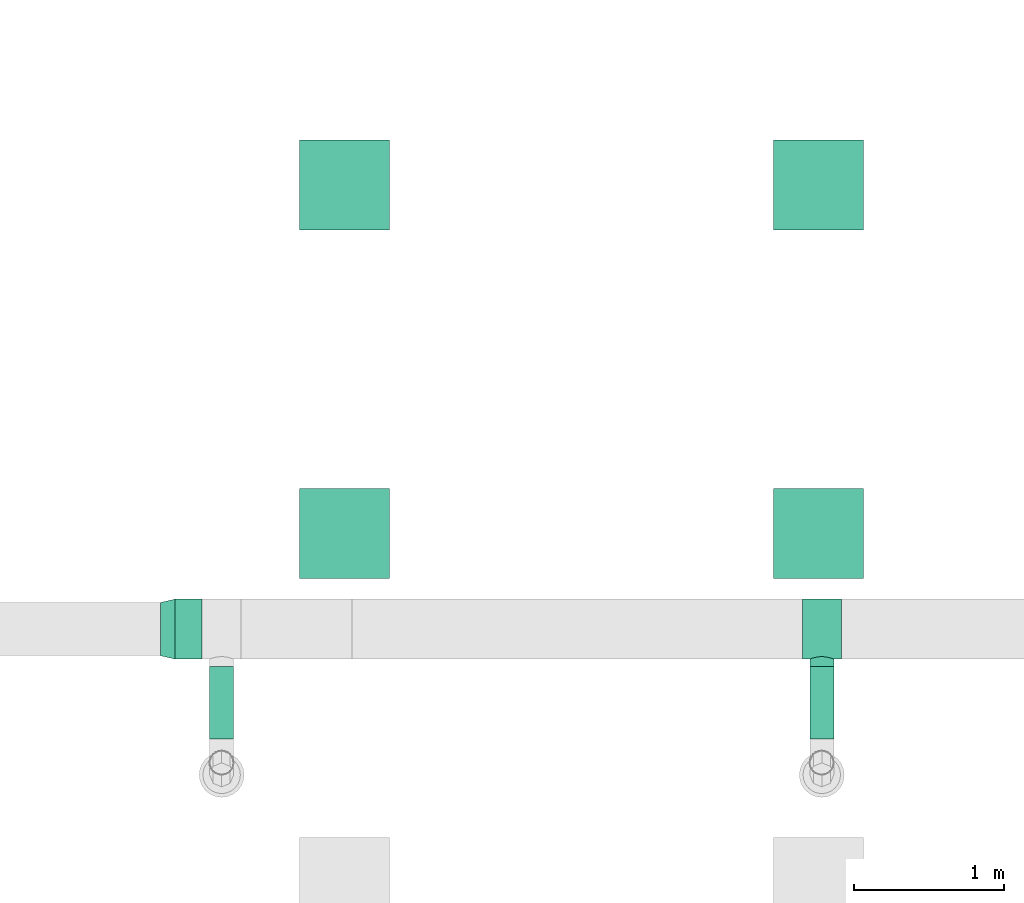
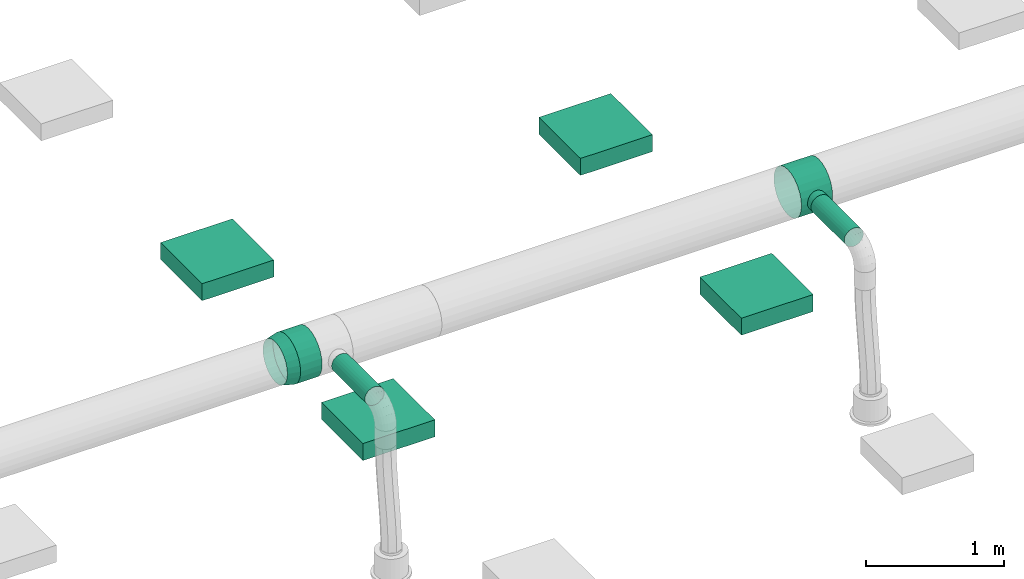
# One storey, part 61 of 374: 4 distribution elements, 3 flow segments, 2 flow fittings.
"""IFC2X3 building model written with IfcOpenShell, lengths in metres."""

from ifc_helpers import new_model, si_unit, direction, frame, frame_2d, origin, place, context, subcontext, project, spatial, rectangle, extrude, open_shell, surface_model, source, transform, mapped, element, save


model = new_model("IFC2X3")

# Units and contexts
model_context = context("Model", 3, precision=1e-05, world=origin(), true_north=direction((-0.4480736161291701, 0.8939966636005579)))
body_context = subcontext(model_context, "Body", "Model", "MODEL_VIEW")
ifc_project = project(units=[si_unit("LENGTHUNIT", "METRE"), si_unit("AREAUNIT", "SQUARE_METRE"), si_unit("VOLUMEUNIT", "CUBIC_METRE"), si_unit("PLANEANGLEUNIT", "RADIAN"), si_unit("THERMODYNAMICTEMPERATUREUNIT", "KELVIN"), si_unit("MASSUNIT", "GRAM", prefix="KILO"), si_unit("TIMEUNIT", "SECOND")], contexts=[model_context])

# Site, building, storey
site_placement = place(None, origin())
site = spatial("IfcSite", under=ifc_project, at=site_placement, Name="Site 1", CompositionType="ELEMENT")
building_placement = place(site_placement, origin())
building = spatial("IfcBuilding", under=site, at=building_placement, Name="Undefined", CompositionType="ELEMENT")
storey_placement = place(building_placement, origin())
storey = spatial("IfcBuildingStorey", under=building, at=storey_placement, Name="Rez de chauss\x8ee", CompositionType="ELEMENT", Elevation=0.0)

# Flow fitting
shared_shape_1 = source(origin(), body_context, "Body", "SurfaceModel", [
    surface_model("IfcFaceBasedSurfaceModel", [(0.0, 0.05221047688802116, -8.8817842e-16), (0.0, 0.0, 0.0), (0.2599999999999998, -7.105427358e-15, 0.0), (0.2599999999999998, 0.05221047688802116, -8.8817842e-16), (0.0, -0.05043144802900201, -0.013513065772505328), (0.2599999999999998, -0.05043144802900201, -0.013513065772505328), (0.0, -0.09564704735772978, -0.0396183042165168), (0.2599999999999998, -0.09564704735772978, -0.0396183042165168), (0.0, -0.1325654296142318, -0.07653668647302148), (0.2599999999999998, -0.1325654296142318, -0.07653668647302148), (0.0, -0.15867066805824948, -0.12175228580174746), (0.2599999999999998, -0.15867066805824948, -0.12175228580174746), (0.0, -0.17218373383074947, -0.17218373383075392), (0.2599999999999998, -0.17218373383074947, -0.17218373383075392), (0.0, -0.17218373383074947, -0.22439421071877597), (0.2599999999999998, -0.17218373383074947, -0.22439421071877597), (0.0, -0.15867066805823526, -0.2748256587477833), (0.2599999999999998, -0.15867066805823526, -0.2748256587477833), (0.0, -0.1325654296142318, -0.3200412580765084), (0.2599999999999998, -0.1325654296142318, -0.3200412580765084), (0.0, -0.09564704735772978, -0.35695964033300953), (0.2599999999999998, -0.09564704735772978, -0.35695964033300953), (0.0, -0.050431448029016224, -0.3830648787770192), (0.2599999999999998, -0.050431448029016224, -0.3830648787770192), (0.0, 0.0, -0.39657794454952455), (0.2599999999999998, 0.0, -0.39657794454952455), (0.0, 0.05221047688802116, -0.3965779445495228), (0.2599999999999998, 0.05221047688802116, -0.3965779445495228), (0.0, 0.10264192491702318, -0.38306487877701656), (0.2599999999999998, 0.10264192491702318, -0.38306487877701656), (0.0, 0.14785752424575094, -0.356959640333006), (0.2599999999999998, 0.14785752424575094, -0.356959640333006), (0.0, 0.18477590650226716, -0.32004125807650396), (0.2599999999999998, 0.18477590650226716, -0.32004125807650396), (0.0, 0.21088114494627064, -0.2748256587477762), (0.2599999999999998, 0.21088114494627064, -0.2748256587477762), (0.0, 0.22439421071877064, -0.22439421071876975), (0.2599999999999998, 0.22439421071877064, -0.22439421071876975), (0.0, 0.22439421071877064, -0.1721837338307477), (0.2599999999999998, 0.22439421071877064, -0.1721837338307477), (0.0, 0.21088114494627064, -0.12175228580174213), (0.2599999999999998, 0.21088114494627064, -0.12175228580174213), (0.0, 0.18477590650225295, -0.07653668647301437), (0.2599999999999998, 0.18477590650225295, -0.07653668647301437), (0.0, 0.14785752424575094, -0.03961830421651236), (0.2599999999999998, 0.14785752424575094, -0.03961830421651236), (0.0, 0.10264192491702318, -0.013513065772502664), (0.2599999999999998, 0.10264192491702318, -0.013513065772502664), (0.20999999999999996, 0.22439421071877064, -0.22439421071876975), (0.2072740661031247, 0.2206261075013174, -0.24478232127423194), (0.2072740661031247, 0.2712638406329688, -0.2514489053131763), (0.20999999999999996, 0.273966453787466, -0.23092052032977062), (0.19928203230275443, 0.21516691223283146, -0.263524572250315), (0.19928203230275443, 0.2687454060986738, -0.27057831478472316), (0.18656854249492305, 0.20891366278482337, -0.2794128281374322), (0.18656854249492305, 0.2665827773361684, -0.2870051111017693), (0.16999999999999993, 0.20307366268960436, -0.291467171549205), (0.16999999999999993, 0.26492333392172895, -0.29960983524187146), (0.15070552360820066, 0.19890954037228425, -0.2989799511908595), (0.15070552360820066, 0.26388016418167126, -0.307533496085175), (0.1299999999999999, 0.19739798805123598, -0.3015304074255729), (0.1299999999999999, 0.26352435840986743, -0.3102361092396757), (0.10929447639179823, 0.19890954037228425, -0.2989799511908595), (0.10929447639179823, 0.26388016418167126, -0.307533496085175), (0.08999999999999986, 0.20307366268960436, -0.291467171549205), (0.08999999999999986, 0.26492333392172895, -0.29960983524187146), (0.07343145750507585, 0.20891366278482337, -0.2794128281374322), (0.07343145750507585, 0.2665827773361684, -0.2870051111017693), (0.06071796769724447, 0.21516691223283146, -0.263524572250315), (0.06071796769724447, 0.2687454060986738, -0.27057831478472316), (0.05272593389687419, 0.2206261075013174, -0.24478232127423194), (0.05272593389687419, 0.2712638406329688, -0.2514489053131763), (0.04999999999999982, 0.22439421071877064, -0.22439421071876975), (0.04999999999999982, 0.273966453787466, -0.23092052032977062), (0.05272593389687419, 0.22603133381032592, -0.20372555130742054), (0.05272593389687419, 0.27666906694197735, -0.21039213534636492), (0.06071796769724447, 0.22560900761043, -0.18420898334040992), (0.06071796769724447, 0.27918750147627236, -0.19126272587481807), (0.07343145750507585, 0.2236810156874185, -0.16724364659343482), (0.07343145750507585, 0.28135013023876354, -0.17483592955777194), (0.08999999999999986, 0.22115990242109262, -0.1540885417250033), (0.08999999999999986, 0.2830095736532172, -0.16223120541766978), (0.10929447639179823, 0.2190821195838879, -0.14575399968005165), (0.10929447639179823, 0.2840527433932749, -0.15430754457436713), (0.1299999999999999, 0.2182821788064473, -0.14289922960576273), (0.1299999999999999, 0.28440854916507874, -0.15160493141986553), (0.15070552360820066, 0.2190821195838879, -0.14575399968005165), (0.15070552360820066, 0.2840527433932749, -0.15430754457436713), (0.16999999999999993, 0.22115990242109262, -0.1540885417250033), (0.16999999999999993, 0.2830095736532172, -0.16223120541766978), (0.18656854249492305, 0.2236810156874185, -0.16724364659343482), (0.18656854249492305, 0.28135013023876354, -0.17483592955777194), (0.19928203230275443, 0.22560900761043, -0.18420898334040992), (0.19928203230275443, 0.27918750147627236, -0.19126272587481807), (0.2072740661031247, 0.22603133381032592, -0.20372555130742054), (0.2072740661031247, 0.27666906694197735, -0.21039213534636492)], [open_shell([[[0, 1, 2, 3]], [[1, 4, 5, 2]], [[4, 6, 7, 5]], [[6, 8, 9, 7]], [[8, 10, 11, 9]], [[10, 12, 13, 11]], [[12, 14, 15, 13]], [[14, 16, 17, 15]], [[16, 18, 19, 17]], [[18, 20, 21, 19]], [[20, 22, 23, 21]], [[22, 24, 25, 23]], [[24, 26, 27, 25]], [[26, 28, 29, 27]], [[28, 30, 31, 29]], [[30, 32, 33, 31]], [[32, 34, 35, 33]], [[34, 36, 37, 35]], [[36, 38, 39, 37]], [[38, 40, 41, 39]], [[40, 42, 43, 41]], [[42, 44, 45, 43]], [[44, 46, 47, 45]], [[46, 0, 3, 47]], [[48, 49, 50, 51]], [[49, 52, 53, 50]], [[52, 54, 55, 53]], [[54, 56, 57, 55]], [[56, 58, 59, 57]], [[58, 60, 61, 59]], [[60, 62, 63, 61]], [[62, 64, 65, 63]], [[64, 66, 67, 65]], [[66, 68, 69, 67]], [[68, 70, 71, 69]], [[70, 72, 73, 71]], [[72, 74, 75, 73]], [[74, 76, 77, 75]], [[76, 78, 79, 77]], [[78, 80, 81, 79]], [[80, 82, 83, 81]], [[82, 84, 85, 83]], [[84, 86, 87, 85]], [[86, 88, 89, 87]], [[88, 90, 91, 89]], [[90, 92, 93, 91]], [[92, 94, 95, 93]], [[94, 48, 51, 95]]])]),
])
flow_fitting_1_placement = place(storey_placement, origin())
element("IfcFlowFitting", 1, at=flow_fitting_1_placement, inside=storey, Name="Pièce en té 90°", ObjectType="Pièce en té 90°", context=body_context, shape_type="MappedRepresentation", body=[
    mapped(shared_shape_1, transform((42.16000111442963, 2.903061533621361, 3.6068148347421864), x_axis=(1.0, 0.0, 0.0), y_axis=(0.0, -0.9914448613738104, -0.13052619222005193), z_axis=(0.0, 0.13052619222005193, -0.9914448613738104))),
])

# Flow segment
shared_shape_2 = source(origin(), body_context, "Body", "SurfaceModel", [
    surface_model("IfcFaceBasedSurfaceModel", [(0.0, 0.05221047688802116, -8.8817842e-16), (0.0, 0.0, 0.0), (0.17999999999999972, 0.0, 4.4408921e-16), (0.17999999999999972, 0.05221047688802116, 0.0), (0.0, -0.05043144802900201, -0.013513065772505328), (0.17999999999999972, -0.050431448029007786, -0.013513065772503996), (0.0, -0.09564704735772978, -0.0396183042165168), (0.17999999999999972, -0.09564704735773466, -0.03961830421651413), (0.0, -0.1325654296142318, -0.07653668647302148), (0.17999999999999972, -0.13256542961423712, -0.07653668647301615), (0.0, -0.15867066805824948, -0.12175228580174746), (0.17999999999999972, -0.15867066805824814, -0.12175228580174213), (0.0, -0.17218373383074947, -0.17218373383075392), (0.17999999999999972, -0.17218373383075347, -0.17218373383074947), (0.0, -0.17218373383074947, -0.22439421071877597), (0.17999999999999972, -0.17218373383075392, -0.2243942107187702), (0.0, -0.15867066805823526, -0.2748256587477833), (0.17999999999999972, -0.15867066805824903, -0.27482565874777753), (0.0, -0.1325654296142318, -0.3200412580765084), (0.17999999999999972, -0.13256542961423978, -0.32004125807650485), (0.0, -0.09564704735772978, -0.35695964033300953), (0.17999999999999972, -0.09564704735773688, -0.3569596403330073), (0.0, -0.050431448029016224, -0.3830648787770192), (0.17999999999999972, -0.050431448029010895, -0.3830648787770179), (0.0, 0.0, -0.39657794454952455), (0.17999999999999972, -3.108624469e-15, -0.39657794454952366), (0.0, 0.05221047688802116, -0.3965779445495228), (0.17999999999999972, 0.052210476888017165, -0.39657794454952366), (0.0, 0.10264192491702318, -0.38306487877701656), (0.17999999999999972, 0.10264192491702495, -0.3830648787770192), (0.0, 0.14785752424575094, -0.356959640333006), (0.17999999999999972, 0.14785752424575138, -0.35695964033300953), (0.0, 0.18477590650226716, -0.32004125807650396), (0.17999999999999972, 0.18477590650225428, -0.32004125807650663), (0.0, 0.21088114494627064, -0.2748256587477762), (0.17999999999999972, 0.21088114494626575, -0.27482565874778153), (0.0, 0.22439421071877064, -0.22439421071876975), (0.17999999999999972, 0.2243942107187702, -0.22439421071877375), (0.0, 0.22439421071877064, -0.1721837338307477), (0.17999999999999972, 0.22439421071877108, -0.17218373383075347), (0.0, 0.21088114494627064, -0.12175228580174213), (0.17999999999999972, 0.2108811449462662, -0.12175228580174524), (0.0, 0.18477590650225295, -0.07653668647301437), (0.17999999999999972, 0.1847759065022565, -0.07653668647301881), (0.0, 0.14785752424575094, -0.03961830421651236), (0.17999999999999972, 0.14785752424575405, -0.03961830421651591), (0.0, 0.10264192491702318, -0.013513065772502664), (0.17999999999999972, 0.10264192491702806, -0.013513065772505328)], [open_shell([[[0, 1, 2, 3]], [[1, 4, 5, 2]], [[4, 6, 7, 5]], [[6, 8, 9, 7]], [[8, 10, 11, 9]], [[10, 12, 13, 11]], [[12, 14, 15, 13]], [[14, 16, 17, 15]], [[16, 18, 19, 17]], [[18, 20, 21, 19]], [[20, 22, 23, 21]], [[22, 24, 25, 23]], [[24, 26, 27, 25]], [[26, 28, 29, 27]], [[28, 30, 31, 29]], [[30, 32, 33, 31]], [[32, 34, 35, 33]], [[34, 36, 37, 35]], [[36, 38, 39, 37]], [[38, 40, 41, 39]], [[40, 42, 43, 41]], [[42, 44, 45, 43]], [[44, 46, 47, 45]], [[46, 0, 3, 47]]])]),
])
flow_segment_1_placement = place(storey_placement, origin())
element("IfcFlowSegment", 2, at=flow_segment_1_placement, inside=storey, Name="Manchon", ObjectType="Manchon", context=body_context, shape_type="MappedRepresentation", body=[
    mapped(shared_shape_2, transform((38.160001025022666, 2.903061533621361, 3.9931851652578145), x_axis=(-1.0, 0.0, 0.0), y_axis=(7.266545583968e-12, -0.9914448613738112, 0.13052619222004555), z_axis=(0.0, 0.13052619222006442, 0.9914448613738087))),
])

# Flow fitting
shared_shape_3 = source(origin(), body_context, "Body", "SurfaceModel", [
    surface_model("IfcFaceBasedSurfaceModel", [(0.0015398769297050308, 0.05218776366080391, 1.776356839e-15), (0.0, 0.0, 0.0), (0.09957534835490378, 8.8817842e-16, 1.776356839e-15), (0.10094198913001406, 0.04631664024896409, 1.776356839e-15), (0.0015398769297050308, -0.05049883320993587, -0.013169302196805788), (0.10094198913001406, -0.04481771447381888, -0.011687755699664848), (0.006054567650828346, -0.09586732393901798, -0.038610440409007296), (0.10494877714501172, -0.0850822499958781, -0.03426676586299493), (0.013236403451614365, -0.13301368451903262, -0.07458964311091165), (0.11132265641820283, -0.11804964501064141, -0.0661983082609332), (0.02259595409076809, -0.15940645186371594, -0.11865498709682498), (0.1196292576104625, -0.14147322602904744, -0.10530630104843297), (0.033495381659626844, -0.17324700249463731, -0.16780349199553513), (0.12930249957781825, -0.15375671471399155, -0.14892559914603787), (0.04519190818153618, -0.17359212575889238, -0.21868576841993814), (0.13968316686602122, -0.15406301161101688, -0.1940836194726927), (0.05688843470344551, -0.16041830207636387, -0.2678342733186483), (0.15006383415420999, -0.14237124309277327, -0.23770291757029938), (0.06778786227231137, -0.13462330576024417, -0.3118996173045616), (0.15973707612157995, -0.11947818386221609, -0.27681091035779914), (0.0771474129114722, -0.0979650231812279, -0.3478788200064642), (0.16804367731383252, -0.08694395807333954, -0.3087424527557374), (0.08432924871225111, -0.05294165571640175, -0.3733199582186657), (0.17441755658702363, -0.04698571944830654, -0.3313214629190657), (0.08884393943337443, -0.0026214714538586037, -0.3864892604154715), (0.17842434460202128, -0.002326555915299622, -0.34300921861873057), (0.09038381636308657, 0.049566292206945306, -0.3864892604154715), (0.17979098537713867, 0.04399008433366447, -0.34300921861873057), (0.08884393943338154, 0.10006512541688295, -0.3733199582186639), (0.17842434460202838, 0.08880779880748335, -0.33132146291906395), (0.08432924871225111, 0.14543361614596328, -0.3478788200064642), (0.17441755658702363, 0.12907233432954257, -0.30874245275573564), (0.0771474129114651, 0.1825799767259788, -0.31189961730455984), (0.16804367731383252, 0.16203972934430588, -0.2768109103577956), (0.06778786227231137, 0.20897274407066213, -0.26783427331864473), (0.15973707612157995, 0.1854633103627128, -0.23770291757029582), (0.05688843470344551, 0.2228132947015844, -0.2186857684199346), (0.15006383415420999, 0.19774679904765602, -0.1940836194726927), (0.04519190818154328, 0.22315841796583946, -0.16780349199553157), (0.13968316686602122, 0.19805309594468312, -0.14892559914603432), (0.03349538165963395, 0.20998459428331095, -0.1186549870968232), (0.12930249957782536, 0.18636132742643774, -0.10530630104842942), (0.02259595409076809, 0.18418959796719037, -0.0745896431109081), (0.1196292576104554, 0.16346826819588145, -0.06619830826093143), (0.013236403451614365, 0.147531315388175, -0.03861044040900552), (0.11132265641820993, 0.1309340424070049, -0.03426676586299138), (0.006054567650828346, 0.10250794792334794, -0.013169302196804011), (0.10494877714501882, 0.09097580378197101, -0.011687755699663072)], [open_shell([[[0, 1, 2, 3]], [[1, 4, 5, 2]], [[4, 6, 7, 5]], [[6, 8, 9, 7]], [[8, 10, 11, 9]], [[10, 12, 13, 11]], [[12, 14, 15, 13]], [[14, 16, 17, 15]], [[16, 18, 19, 17]], [[18, 20, 21, 19]], [[20, 22, 23, 21]], [[22, 24, 25, 23]], [[24, 26, 27, 25]], [[26, 28, 29, 27]], [[28, 30, 31, 29]], [[30, 32, 33, 31]], [[32, 34, 35, 33]], [[34, 36, 37, 35]], [[36, 38, 39, 37]], [[38, 40, 41, 39]], [[40, 42, 43, 41]], [[42, 44, 45, 43]], [[44, 46, 47, 45]], [[46, 0, 3, 47]]])]),
])
flow_fitting_2_placement = place(storey_placement, origin())
element("IfcFlowFitting", 3, at=flow_fitting_2_placement, inside=storey, Name="Réduction conique", ObjectType="Réduction conique", context=body_context, shape_type="MappedRepresentation", body=[
    mapped(shared_shape_3, transform((37.980001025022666, 3.04448288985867, 3.7482361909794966), x_axis=(-0.9741366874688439, -0.2182601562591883, 0.05848263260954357), y_axis=(0.02874333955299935, 0.13702308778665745, 0.9901507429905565), z_axis=(-0.22412392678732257, 0.9662231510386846, -0.12720569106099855))),
])

# Flow segments
shared_shape_4 = source(origin(), body_context, "Body", "SurfaceModel", [
    surface_model("IfcFaceBasedSurfaceModel", [(0.0, 0.020884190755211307, 0.0), (0.0, 0.0, 0.0), (0.4812979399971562, 0.0, -2.22044605e-16), (0.4812979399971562, 0.0208841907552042, -2.22044605e-16), (0.0, -0.020172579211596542, -0.005405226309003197), (0.4812979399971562, -0.020172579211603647, -0.005405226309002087), (0.0, -0.03825881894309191, -0.015847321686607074), (0.4812979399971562, -0.038258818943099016, -0.01584732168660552), (0.0, -0.05302617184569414, -0.0306146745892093), (0.4812979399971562, -0.05302617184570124, -0.030614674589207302), (0.0, -0.06346826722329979, -0.04870091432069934), (0.4812979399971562, -0.0634682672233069, -0.0487009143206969), (0.0, -0.06887349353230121, -0.06887349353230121), (0.4812979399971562, -0.06887349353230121, -0.0688734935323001), (0.0, -0.06887349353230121, -0.08975768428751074), (0.4812979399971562, -0.06887349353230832, -0.08975768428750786), (0.0, -0.06346826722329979, -0.10993026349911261), (0.4812979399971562, -0.0634682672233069, -0.10993026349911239), (0.0, -0.05302617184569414, -0.12801650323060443), (0.4812979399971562, -0.05302617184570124, -0.12801650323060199), (0.0, -0.038258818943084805, -0.14278385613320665), (0.4812979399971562, -0.03825881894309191, -0.14278385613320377), (0.0, -0.020172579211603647, -0.15322595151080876), (0.4812979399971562, -0.020172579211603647, -0.15322595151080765), (0.0, 7.105427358e-15, -0.15863117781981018), (0.4812979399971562, -7.105427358e-15, -0.1586311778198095), (0.0, 0.020884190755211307, -0.15863117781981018), (0.4812979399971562, 0.0208841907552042, -0.15863117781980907), (0.0, 0.04105676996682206, -0.15322595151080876), (0.4812979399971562, 0.04105676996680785, -0.15322595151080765), (0.0, 0.05914300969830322, -0.1427838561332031), (0.4812979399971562, 0.05914300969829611, -0.1427838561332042), (0.0, 0.07391036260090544, -0.12801650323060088), (0.4812979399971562, 0.07391036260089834, -0.12801650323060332), (0.0, 0.0843524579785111, -0.10993026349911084), (0.4812979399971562, 0.08435245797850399, -0.10993026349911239), (0.0, 0.08975768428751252, -0.08975768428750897), (0.4812979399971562, 0.08975768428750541, -0.08975768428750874), (0.0, 0.08975768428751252, -0.06887349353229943), (0.4812979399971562, 0.08975768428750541, -0.06887349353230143), (0.0, 0.0843524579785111, -0.048700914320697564), (0.4812979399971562, 0.08435245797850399, -0.04870091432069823), (0.0, 0.07391036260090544, -0.030614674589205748), (0.4812979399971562, 0.07391036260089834, -0.030614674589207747), (0.0, 0.05914300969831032, -0.015847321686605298), (0.4812979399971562, 0.05914300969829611, -0.015847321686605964), (0.0, 0.04105676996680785, -0.005405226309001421), (0.4812979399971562, 0.04105676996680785, -0.005405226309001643)], [open_shell([[[0, 1, 2, 3]], [[1, 4, 5, 2]], [[4, 6, 7, 5]], [[6, 8, 9, 7]], [[8, 10, 11, 9]], [[10, 12, 13, 11]], [[12, 14, 15, 13]], [[14, 16, 17, 15]], [[16, 18, 19, 17]], [[18, 20, 21, 19]], [[20, 22, 23, 21]], [[22, 24, 25, 23]], [[24, 26, 27, 25]], [[26, 28, 29, 27]], [[28, 30, 31, 29]], [[30, 32, 33, 31]], [[32, 34, 35, 33]], [[34, 36, 37, 35]], [[36, 38, 39, 37]], [[38, 40, 41, 39]], [[40, 42, 43, 41]], [[42, 44, 45, 43]], [[44, 46, 47, 45]], [[46, 0, 3, 47]]])]),
])
flow_segment_2_placement = place(storey_placement, origin())
element("IfcFlowSegment", 4, at=flow_segment_2_placement, inside=storey, Name="Tube", ObjectType="Tube", context=body_context, shape_type="MappedRepresentation", body=[
    mapped(shared_shape_4, transform((38.26929550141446, 2.601297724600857, 3.877274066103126), x_axis=(0.0, -1.0, 0.0), y_axis=(0.9914448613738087, 0.0, 0.13052619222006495), z_axis=(-0.13052619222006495, 0.0, 0.9914448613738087))),
])
flow_segment_3_placement = place(storey_placement, origin())
element("IfcFlowSegment", 5, at=flow_segment_3_placement, inside=storey, Name="Tube", ObjectType="Tube", context=body_context, shape_type="MappedRepresentation", body=[
    mapped(shared_shape_4, transform((42.26929559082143, 2.601297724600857, 3.877274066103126), x_axis=(0.0, -1.0, 0.0), y_axis=(0.9914448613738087, 0.0, 0.13052619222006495), z_axis=(-0.13052619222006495, 0.0, 0.9914448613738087))),
])

# Distribution elements
distribution_element_1_placement = place(storey_placement, origin())
element("IfcDistributionElement", 6, at=distribution_element_1_placement, inside=storey, Name="Decken-Rechteckleuchte mit Rahmen AP", ObjectType="Decken-Rechteckleuchte mit Rahmen AP", context=body_context, shape_type="SweptSolid", body=[
    extrude(rectangle(XDim=0.6000000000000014, YDim=0.6000000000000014, at=frame_2d((3.552713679e-15, 0.0), x_axis=(0.0, 1.0))), frame((42.267495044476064, 5.8125, 2.5500000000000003), z_axis=(0.0, 0.0, -1.0), x_axis=(1.0, 0.0, 0.0)), (0.0, 0.0, 1.0), 0.15),
])
distribution_element_2_placement = place(storey_placement, origin())
element("IfcDistributionElement", 7, at=distribution_element_2_placement, inside=storey, Name="Decken-Rechteckleuchte mit Rahmen AP", ObjectType="Decken-Rechteckleuchte mit Rahmen AP", context=body_context, shape_type="SweptSolid", body=[
    extrude(rectangle(XDim=0.6000000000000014, YDim=0.6000000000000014, at=frame_2d((3.552713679e-15, 0.0), x_axis=(0.0, 1.0))), frame((39.109652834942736, 3.4875, 2.5500000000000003), z_axis=(0.0, 0.0, -1.0), x_axis=(1.0, 0.0, 0.0)), (0.0, 0.0, 1.0), 0.15),
])
distribution_element_3_placement = place(storey_placement, origin())
element("IfcDistributionElement", 8, at=distribution_element_3_placement, inside=storey, Name="Decken-Rechteckleuchte mit Rahmen AP", ObjectType="Decken-Rechteckleuchte mit Rahmen AP", context=body_context, shape_type="SweptSolid", body=[
    extrude(rectangle(XDim=0.6000000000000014, YDim=0.6000000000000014, at=frame_2d((3.552713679e-15, 0.0), x_axis=(0.0, 1.0))), frame((42.26749512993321, 3.4875, 2.5500000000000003), z_axis=(0.0, 0.0, -1.0), x_axis=(1.0, 0.0, 0.0)), (0.0, 0.0, 1.0), 0.15),
])
distribution_element_4_placement = place(storey_placement, origin())
element("IfcDistributionElement", 9, at=distribution_element_4_placement, inside=storey, Name="Decken-Rechteckleuchte mit Rahmen AP", ObjectType="Decken-Rechteckleuchte mit Rahmen AP", context=body_context, shape_type="SweptSolid", body=[
    extrude(rectangle(XDim=0.6000000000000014, YDim=0.6000000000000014, at=frame_2d((3.552713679e-15, 0.0), x_axis=(0.0, 1.0))), frame((39.10965274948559, 5.8125, 2.5500000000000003), z_axis=(0.0, 0.0, -1.0), x_axis=(1.0, 0.0, 0.0)), (0.0, 0.0, 1.0), 0.15),
])

save(model, "model.ifc")
